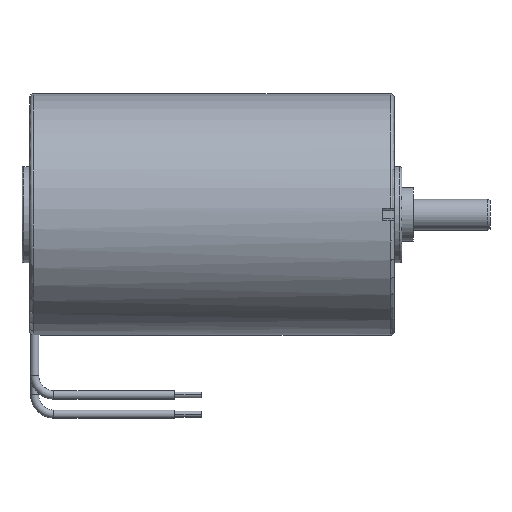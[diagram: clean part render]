
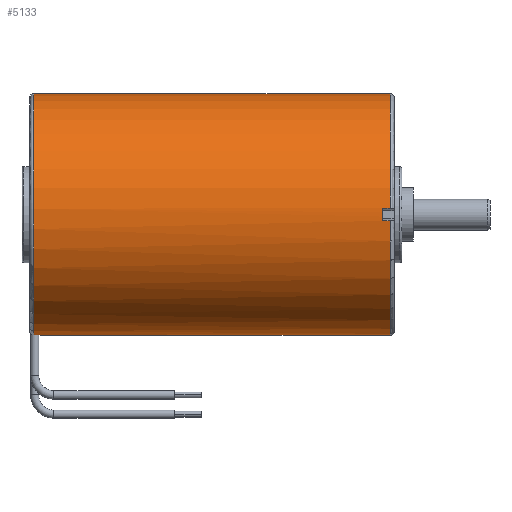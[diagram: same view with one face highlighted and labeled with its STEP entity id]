
A CAD part, top view. The second image highlights one B-rep face of the part: STEP entity #5133.
In plain terms, the highlighted cylindrical face has radius 31.5 mm (diameter 63 mm), a partial arc.
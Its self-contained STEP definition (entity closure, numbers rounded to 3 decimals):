
#1230=CARTESIAN_POINT('',(-94.,0.,0.));
#1231=DIRECTION('',(-1.,0.,0.));
#1232=DIRECTION('',(0.,-0.995,0.095));
#1233=AXIS2_PLACEMENT_3D('',#1230,#1231,#1232);
#1264=DIRECTION('',(-1.,0.,0.));
#1265=VECTOR('',#1264,93.);
#1266=CARTESIAN_POINT('',(-1.,31.5,0.));
#1267=LINE('',#1266,#1265);
#1268=DIRECTION('',(-1.,0.,0.));
#1269=VECTOR('',#1268,91.2);
#1270=CARTESIAN_POINT('',(-1.,-31.5,0.));
#1271=LINE('',#1270,#1269);
#1272=CARTESIAN_POINT('',(-3.,0.,0.));
#1273=DIRECTION('',(1.,0.,0.));
#1274=DIRECTION('',(0.,0.053,0.999));
#1275=AXIS2_PLACEMENT_3D('',#1272,#1273,#1274);
#1306=DIRECTION('',(1.,0.,0.));
#1307=VECTOR('',#1306,2.);
#1308=CARTESIAN_POINT('',(-3.,-1.658,31.456));
#1309=LINE('',#1308,#1307);
#2464=DIRECTION('',(1.,0.,0.));
#2465=VECTOR('',#2464,2.);
#2466=CARTESIAN_POINT('',(-3.,1.658,31.456));
#2467=LINE('',#2466,#2465);
#2489=CARTESIAN_POINT('',(-1.,0.,0.));
#2490=DIRECTION('',(-1.,0.,0.));
#2491=DIRECTION('',(0.,-1.,0.));
#2492=AXIS2_PLACEMENT_3D('',#2489,#2490,#2491);
#2505=CARTESIAN_POINT('',(-1.,0.,0.));
#2506=DIRECTION('',(-1.,0.,0.));
#2507=DIRECTION('',(0.,0.053,0.999));
#2508=AXIS2_PLACEMENT_3D('',#2505,#2506,#2507);
#2558=CARTESIAN_POINT('',(-92.2,0.,0.));
#2559=DIRECTION('',(1.,0.,0.));
#2560=DIRECTION('',(0.,-0.995,0.095));
#2561=AXIS2_PLACEMENT_3D('',#2558,#2559,#2560);
#2613=DIRECTION('',(1.,0.,0.));
#2614=VECTOR('',#2613,1.8);
#2615=CARTESIAN_POINT('',(-94.,-31.357,3.));
#2616=LINE('',#2615,#2614);
#2937=CARTESIAN_POINT('',(-92.2,-31.357,3.));
#2938=CARTESIAN_POINT('',(-92.2,-31.5,0.));
#2939=VERTEX_POINT('',#2937);
#2940=VERTEX_POINT('',#2938);
#3039=CARTESIAN_POINT('',(-3.,1.658,31.456));
#3040=CARTESIAN_POINT('',(-3.,-1.658,31.456));
#3041=VERTEX_POINT('',#3039);
#3042=VERTEX_POINT('',#3040);
#3043=CARTESIAN_POINT('',(-1.,-1.658,31.456));
#3044=VERTEX_POINT('',#3043);
#3045=CARTESIAN_POINT('',(-1.,1.658,31.456));
#3046=VERTEX_POINT('',#3045);
#3243=CARTESIAN_POINT('',(-94.,31.5,0.));
#3245=VERTEX_POINT('',#3243);
#3248=CARTESIAN_POINT('',(-94.,-31.357,3.));
#3249=VERTEX_POINT('',#3248);
#3251=CARTESIAN_POINT('',(-1.,31.5,0.));
#3252=VERTEX_POINT('',#3251);
#3253=CARTESIAN_POINT('',(-1.,-31.5,0.));
#3254=VERTEX_POINT('',#3253);
#5110=CARTESIAN_POINT('',(-101.95,0.,0.));
#5111=DIRECTION('',(1.,0.,0.));
#5112=DIRECTION('',(0.,-1.,0.));
#5113=AXIS2_PLACEMENT_3D('',#5110,#5111,#5112);
#5114=CYLINDRICAL_SURFACE('',#5113,31.5);
#5115=ORIENTED_EDGE('',*,*,#5084,.T.);
#5117=ORIENTED_EDGE('',*,*,#5116,.T.);
#5119=ORIENTED_EDGE('',*,*,#5118,.F.);
#5120=ORIENTED_EDGE('',*,*,#5070,.T.);
#5122=ORIENTED_EDGE('',*,*,#5121,.F.);
#5124=ORIENTED_EDGE('',*,*,#5123,.F.);
#5125=ORIENTED_EDGE('',*,*,#5042,.T.);
#5126=ORIENTED_EDGE('',*,*,#5063,.F.);
#5128=ORIENTED_EDGE('',*,*,#5127,.F.);
#5130=ORIENTED_EDGE('',*,*,#5129,.F.);
#5131=EDGE_LOOP('',(#5115,#5117,#5119,#5120,#5122,#5124,#5125,#5126,#5128,
#5130));
#5132=FACE_OUTER_BOUND('',#5131,.F.);
#5133=ADVANCED_FACE('',(#5132),#5114,.T.);
#1234=CIRCLE('',#1233,31.5);
#1276=CIRCLE('',#1275,31.5);
#2493=CIRCLE('',#2492,31.5);
#2509=CIRCLE('',#2508,31.5);
#2562=CIRCLE('',#2561,31.5);
#5042=EDGE_CURVE('',#3249,#3245,#1234,.T.);
#5063=EDGE_CURVE('',#3252,#3245,#1267,.T.);
#5070=EDGE_CURVE('',#3254,#2940,#1271,.T.);
#5084=EDGE_CURVE('',#3041,#3042,#1276,.T.);
#5116=EDGE_CURVE('',#3042,#3044,#1309,.T.);
#5118=EDGE_CURVE('',#3254,#3044,#2493,.T.);
#5121=EDGE_CURVE('',#2939,#2940,#2562,.T.);
#5123=EDGE_CURVE('',#3249,#2939,#2616,.T.);
#5127=EDGE_CURVE('',#3046,#3252,#2509,.T.);
#5129=EDGE_CURVE('',#3041,#3046,#2467,.T.);
